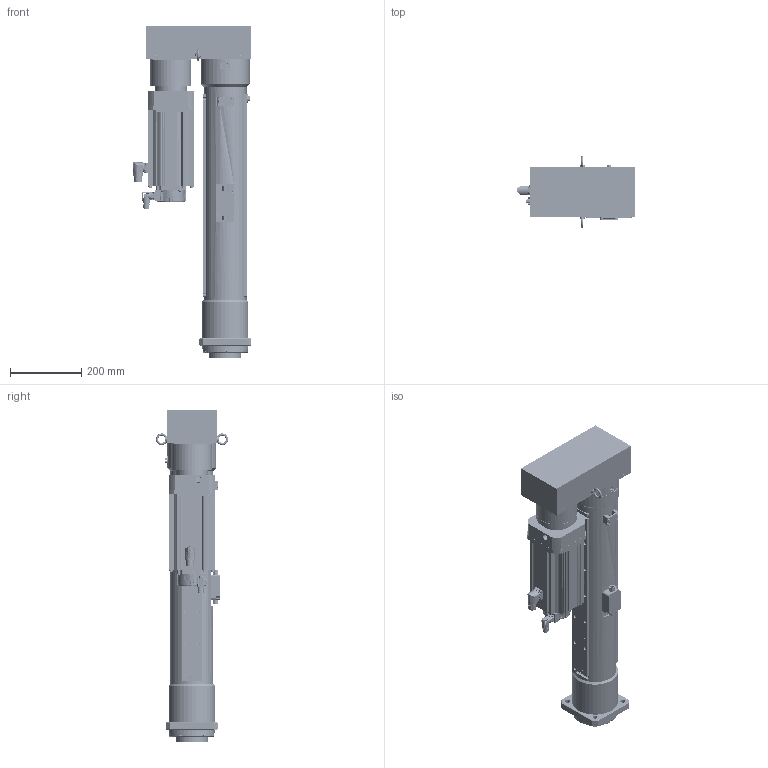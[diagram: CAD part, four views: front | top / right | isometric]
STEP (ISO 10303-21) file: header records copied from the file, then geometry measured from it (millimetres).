
FILE_DESCRIPTION( ('This file contains a STEP AP42 implementation' ,'as created by ZW3D STEP Interface translator.') ,'2;1' );
FILE_NAME( 'OACIS-DC-P050-500-195-A6V400_V20.51.stp' ,'26 427.1540 7', (''), ('ZWCAD Software Co.'), 'Version 1.0', 'ZW3D to STEP translator', '' );
FILE_SCHEMA(('AUTOMOTIVE_DESIGN { 1 0 10303 214 1 1 1 1 }'));
Length unit declared in the file: millimetre
Products named in the file (1): 0
Bounding box: 331 x 202.25 x 931 mm (x, y, z)
Volume: 15597785.4 mm3; surface area: 2346360 mm2
Topology: 55 solids, 58 shells, 3929 faces, 10071 edges, 6448 vertices
Faces by surface type: cylinder 1906, plane 1474, cone 382, torus 108, bspline 47, sphere 12
Full cylindrical faces by diameter (mm): 1.25 x12, 1.567 x4, 2 x1, 2.232 x6, 2.459 x1, 2.8 x1, 3.242 x3, 3.3 x91, 4.2 x4, 4.3 x30, 4.5 x14, 4.917 x20, 5 x1, 5.3 x4, 5.5 x5, 6 x12, 6.647 x6, 6.8 x41, 7 x4, 8 x36, 8.4 x8, 8.5 x5, 9 x26, 9.5 x4, 9.78 x8, 10 x7, 10.104 x4, 10.106 x1, 10.2 x16, 10.5 x4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
Entity records: 142494 total; most frequent: CARTESIAN_POINT 37264, DIRECTION 21923, ORIENTED_EDGE 19860, EDGE_CURVE 9972, AXIS2_PLACEMENT_3D 8652, VERTEX_POINT 6457, CIRCLE 4756, EDGE_LOOP 4641
